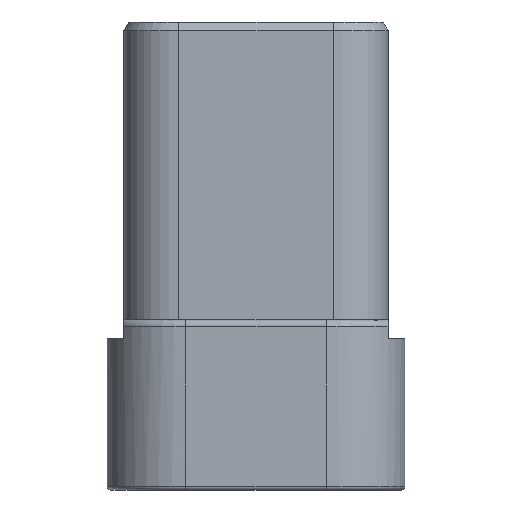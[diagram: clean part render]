
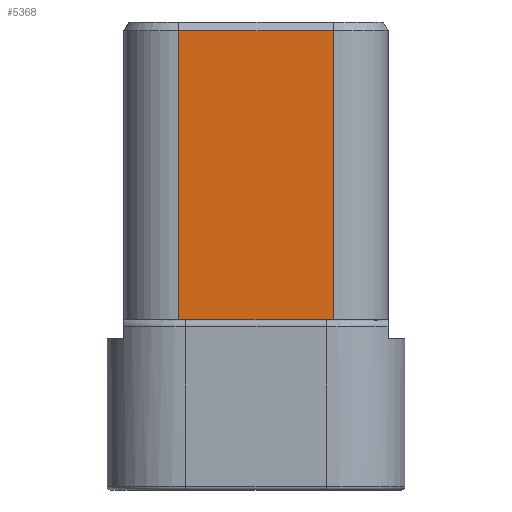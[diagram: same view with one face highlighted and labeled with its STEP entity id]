
A CAD part, front view. The second image highlights one B-rep face of the part: STEP entity #5368.
In plain terms, the highlighted planar face has unit normal (0, -1, 0).
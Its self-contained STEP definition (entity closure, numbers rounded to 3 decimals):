
#961=DIRECTION('',(1.,0.,0.));
#962=VECTOR('',#961,11.43);
#963=CARTESIAN_POINT('',(-5.715,-7.899,
-0.635));
#964=LINE('',#963,#962);
#965=DIRECTION('',(1.,0.,0.));
#966=VECTOR('',#965,11.43);
#967=CARTESIAN_POINT('',(-5.715,-7.899,-22.047));
#968=LINE('',#967,#966);
#969=DIRECTION('',(0.,0.,-1.));
#970=VECTOR('',#969,21.412);
#971=CARTESIAN_POINT('',(-5.715,-7.899,
-0.635));
#972=LINE('',#971,#970);
#983=DIRECTION('',(0.,0.,-1.));
#984=VECTOR('',#983,21.412);
#985=CARTESIAN_POINT('',(5.715,-7.899,
-0.635));
#986=LINE('',#985,#984);
#3351=CARTESIAN_POINT('',(-5.715,-7.899,-22.047));
#3352=CARTESIAN_POINT('',(5.715,-7.899,-22.047));
#3353=VERTEX_POINT('',#3351);
#3354=VERTEX_POINT('',#3352);
#3624=CARTESIAN_POINT('',(-5.715,-7.899,-0.635));
#3625=VERTEX_POINT('',#3624);
#3628=CARTESIAN_POINT('',(5.715,-7.899,
-0.635));
#3629=VERTEX_POINT('',#3628);
#5355=CARTESIAN_POINT('',(-5.715,-7.899,0.));
#5356=DIRECTION('',(0.,-1.,0.));
#5357=DIRECTION('',(1.,0.,0.));
#5358=AXIS2_PLACEMENT_3D('',#5355,#5356,#5357);
#5359=PLANE('',#5358);
#5360=ORIENTED_EDGE('',*,*,#5205,.T.);
#5362=ORIENTED_EDGE('',*,*,#5361,.T.);
#5364=ORIENTED_EDGE('',*,*,#5363,.F.);
#5365=ORIENTED_EDGE('',*,*,#5347,.F.);
#5366=EDGE_LOOP('',(#5360,#5362,#5364,#5365));
#5367=FACE_OUTER_BOUND('',#5366,.F.);
#5368=ADVANCED_FACE('',(#5367),#5359,.T.);
#5205=EDGE_CURVE('',#3625,#3629,#964,.T.);
#5347=EDGE_CURVE('',#3625,#3353,#972,.T.);
#5361=EDGE_CURVE('',#3629,#3354,#986,.T.);
#5363=EDGE_CURVE('',#3353,#3354,#968,.T.);
